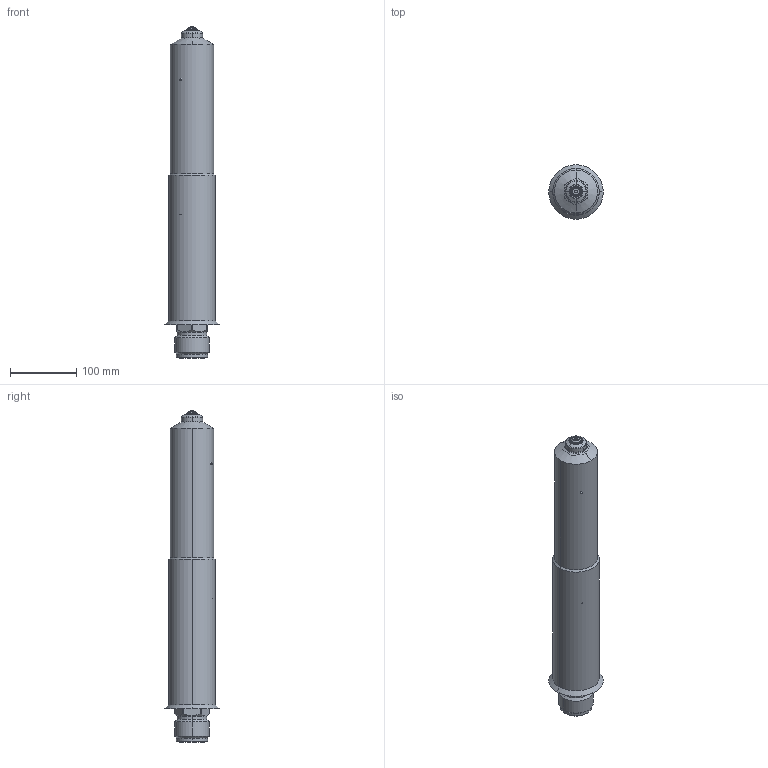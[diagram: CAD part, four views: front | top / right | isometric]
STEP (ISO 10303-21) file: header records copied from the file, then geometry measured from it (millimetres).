
FILE_DESCRIPTION (( 'STEP AP214' ), '1' );
FILE_NAME ('T20_OPEN_450_HELICAL_70.STEP', '2016-09-08T18:28:22', ( '' ), ( '' ), 'SwSTEP 2.0', 'SolidWorks 2015', '' );
FILE_SCHEMA (( 'AUTOMOTIVE_DESIGN' ));
Length unit declared in the file: millimetre
Products named in the file (1): T20_OPEN_450_HELICAL_70
Bounding box: 82 x 82 x 500 mm (x, y, z)
Volume: 2425253.4 mm3; surface area: 194382.8 mm2
Topology: 2 solids, 2 shells, 343 faces, 917 edges, 582 vertices
Faces by surface type: cylinder 110, plane 97, bspline 66, torus 38, cone 32
Entity records: 28359 total; most frequent: CARTESIAN_POINT 16723, ORIENTED_EDGE 1834, DIRECTION 1444, EDGE_CURVE 917, VERTEX_POINT 582, AXIS2_PLACEMENT_3D 569, EDGE_LOOP 355, UNCERTAINTY_MEASURE_WITH_UNIT 347
